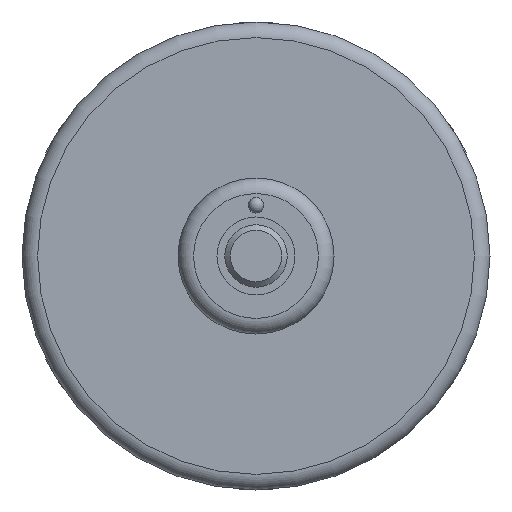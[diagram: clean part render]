
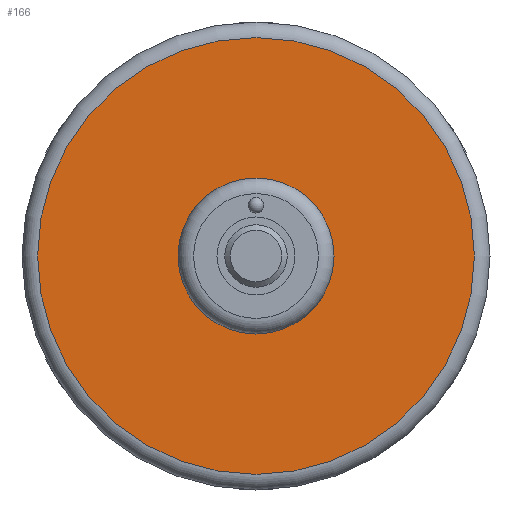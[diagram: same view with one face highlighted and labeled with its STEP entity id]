
A CAD part, left-side view. The second image highlights one B-rep face of the part: STEP entity #166.
In plain terms, the highlighted planar face has unit normal (-1, 0, 0).
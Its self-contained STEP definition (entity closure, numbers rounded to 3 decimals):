
#166 = ADVANCED_FACE( '', ( #437, #438 ), #439, .T. );
#437 = FACE_BOUND( '', #872, .T. );
#438 = FACE_OUTER_BOUND( '', #873, .T. );
#439 = PLANE( '', #874 );
#872 = EDGE_LOOP( '', ( #2310 ) );
#873 = EDGE_LOOP( '', ( #2311 ) );
#874 = AXIS2_PLACEMENT_3D( '', #2312, #2313, #2314 );
#2310 = ORIENTED_EDGE( '', *, *, #3153, .T. );
#2311 = ORIENTED_EDGE( '', *, *, #3182, .T. );
#2312 = CARTESIAN_POINT( '', ( -40.072, 0., 3.4 ) );
#2313 = DIRECTION( '', ( -1., 0., 0. ) );
#2314 = DIRECTION( '', ( 0., 0., 1. ) );
#3153 = EDGE_CURVE( '', #3502, #3502, #3503, .F. );
#3182 = EDGE_CURVE( '', #3554, #3554, #3555, .T. );
#3502 = VERTEX_POINT( '', #4010 );
#3503 = CIRCLE( '', #4011, 5. );
#3554 = VERTEX_POINT( '', #4129 );
#3555 = CIRCLE( '', #4130, 14. );
#4010 = CARTESIAN_POINT( '', ( -40.072, 0., 5. ) );
#4011 = AXIS2_PLACEMENT_3D( '', #5462, #5463, #5464 );
#4129 = CARTESIAN_POINT( '', ( -40.072, 0., 14. ) );
#4130 = AXIS2_PLACEMENT_3D( '', #5491, #5492, #5493 );
#5462 = CARTESIAN_POINT( '', ( -40.072, 0., 0. ) );
#5463 = DIRECTION( '', ( -1., 0., 0. ) );
#5464 = DIRECTION( '', ( 0., 0., 1. ) );
#5491 = CARTESIAN_POINT( '', ( -40.072, 0., 0. ) );
#5492 = DIRECTION( '', ( -1., 0., 0. ) );
#5493 = DIRECTION( '', ( 0., 0., 1. ) );
